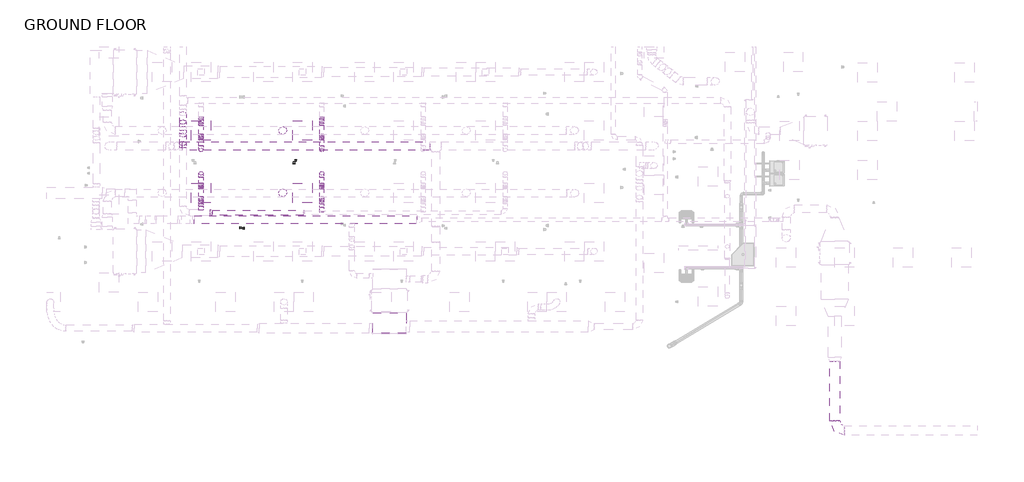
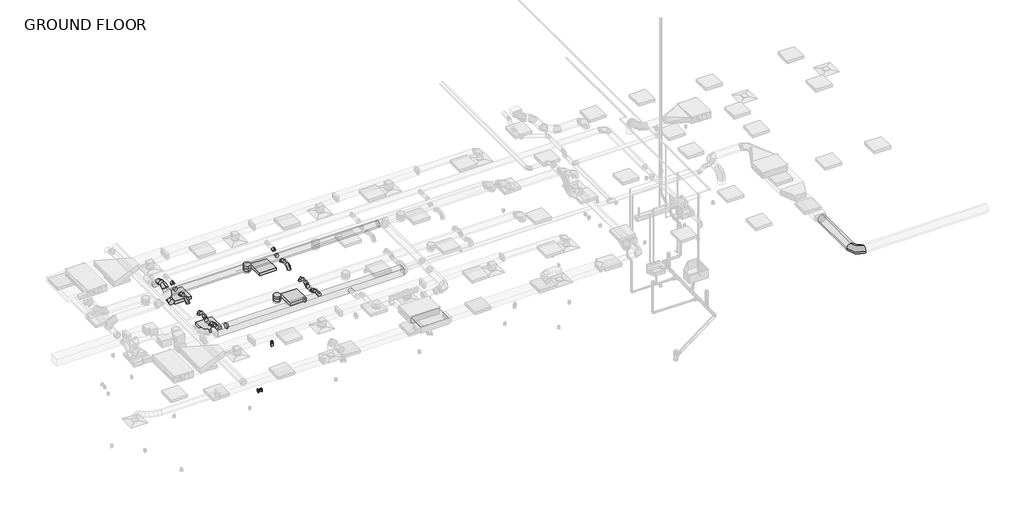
# One storey, part 3 of 20: 31 duct segments, 30 duct fittings, 4 light fixtures, 4 proxies.
"""IFC4 building model written with IfcOpenShell, lengths in millimetres."""

from ifc_helpers import new_model, si_unit, point, frame, frame_2d, origin, place, context, project, spatial, polyline, circle_curve, trimmed, segment, composite_curve, outline, extrude, transform, mapped, element, save
from components import duplex_receptacle_countertop_10251bba, round_elbow_1_d_c80420c1, round_elbow_1_d_281bc45b, round_elbow_1_d_ab3aa7ba, round_elbow_1_d_e3dc691b, round_elbow_1_d_538d8ec8, round_elbow_1_d_400cd2ab, round_elbow_1_d_88736f48, round_elbow_1_d_3f34665d, round_takeoff_standard_161717b3, round_takeoff_standard_c386a54e, round_takeoff_standard_86d024ab, round_takeoff_standard_cae0fe22, round_transition_angle_45_degree_f2e0231c, round_transition_angle_45_degree_d2c7fbb0, troffer_corner_insert_2x2_3lamp_e67c7f8f

model = new_model("IFC4")

# Units and contexts
model_context = context("Model", 3, world=origin())
ifc_project = project(units=[si_unit("LENGTHUNIT", "METRE", prefix="MILLI")], contexts=[model_context])

# Site, building, storey
site = spatial("IfcSite", under=ifc_project)
building = spatial("IfcBuilding", under=site)
storey = spatial("IfcBuildingStorey", under=building, Name="GROUND FLOOR", Elevation=30480.0)

# Proxies
placement = place(None, origin())
duplex_receptacle_countertop_shape = duplex_receptacle_countertop_10251bba(model_context)
element("IfcBuildingElementProxy", 1, Name="Duplex Receptacle : Standard", ObjectType="Duplex Receptacle : Standard", at=placement, inside=storey, context=model_context, shape_type="MappedRepresentation", body=[
    mapped(duplex_receptacle_countertop_shape, transform((-2751.7704607, -3487.800279, 30937.2), x_axis=(0.0, -1.0, 0.0), y_axis=(0.0, 0.0, 1.0), z_axis=(-1.0, 0.0, 0.0))),
])
element("IfcBuildingElementProxy", 2, Name="Duplex Receptacle : Standard", ObjectType="Duplex Receptacle : Standard", at=placement, inside=storey, context=model_context, shape_type="MappedRepresentation", body=[
    mapped(duplex_receptacle_countertop_shape, transform((-2627.9454607, -3509.8392868, 30937.2), x_axis=(0.0, 1.0, 0.0), y_axis=(0.0, 0.0, 1.0), z_axis=(1.0, 0.0, 0.0))),
])
element("IfcBuildingElementProxy", 3, Name="Duplex Receptacle : Standard", ObjectType="Duplex Receptacle : Standard", at=placement, inside=storey, context=model_context, shape_type="MappedRepresentation", body=[
    mapped(duplex_receptacle_countertop_shape, transform((-1062.3593132, -1484.9054995, 30937.2), x_axis=(1.0, 0.0, 0.0), y_axis=(0.0, 0.0, 1.0), z_axis=(0.0, -1.0, 0.0))),
])
element("IfcBuildingElementProxy", 4, Name="Duplex Receptacle : Standard", ObjectType="Duplex Receptacle : Standard", at=placement, inside=storey, context=model_context, shape_type="MappedRepresentation", body=[
    mapped(duplex_receptacle_countertop_shape, transform((-1007.2617938, -1361.0804995, 30937.2), x_axis=(-1.0, 0.0, 0.0), y_axis=(0.0, 0.0, 1.0), z_axis=(0.0, 1.0, 0.0))),
])

# Duct fittings
round_elbow_1_d_shape = round_elbow_1_d_c80420c1(model_context)
element("IfcDuctFitting", 5, ObjectType="Round Elbow : 1 D", at=placement, inside=storey, context=model_context, shape_type="MappedRepresentation", body=[
    mapped(round_elbow_1_d_shape, transform((-3970.9704607, -1056.2804995, 33477.2), x_axis=(0.0, -1.0, 0.0), y_axis=(0.0, 0.0, -1.0), z_axis=(1.0, 0.0, 0.0))),
])
element("IfcDuctFitting", 6, ObjectType="Round Elbow : 1 D", at=placement, inside=storey, context=model_context, shape_type="MappedRepresentation", body=[
    mapped(round_elbow_1_d_shape, transform((-189.5454607, -1056.2804995, 33477.2), x_axis=(0.0, -1.0, 0.0), y_axis=(0.0, 0.0, -1.0), z_axis=(1.0, 0.0, 0.0))),
])
round_elbow_1_d_2_shape = round_elbow_1_d_281bc45b(model_context)
element("IfcDuctFitting", 7, ObjectType="Round Elbow : 1 D", at=placement, inside=storey, context=model_context, shape_type="MappedRepresentation", body=[
    mapped(round_elbow_1_d_2_shape, transform((15866.7105962, -9838.464426, 33750.25), x_axis=(0.0, -1.0, 0.0), y_axis=(1.0, 0.0, 0.0), z_axis=(0.0, 0.0, 1.0))),
])
round_elbow_1_d_3_shape = round_elbow_1_d_ab3aa7ba(model_context)
element("IfcDuctFitting", 8, ObjectType="Round Elbow : 1 D", at=placement, inside=storey, context=model_context, shape_type="MappedRepresentation", body=[
    mapped(round_elbow_1_d_3_shape, transform((-4541.976464, -909.8231584, 33528.0), x_axis=(0.0, 1.0, 0.0), y_axis=(0.0, 0.0, 1.0), z_axis=(1.0, 0.0, 0.0))),
])
element("IfcDuctFitting", 9, ObjectType="Round Elbow : 1 D", at=placement, inside=storey, context=model_context, shape_type="MappedRepresentation", body=[
    mapped(round_elbow_1_d_3_shape, transform((-4541.976464, -528.8231584, 33909.0), x_axis=(0.0, 0.7071067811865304, 0.7071067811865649), y_axis=(0.0, 0.7071067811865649, -0.7071067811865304), z_axis=(-1.0, 0.0, 0.0))),
])
round_elbow_1_d_4_shape = round_elbow_1_d_e3dc691b(model_context)
element("IfcDuctFitting", 10, ObjectType="Round Elbow : 1 D", at=placement, inside=storey, context=model_context, shape_type="MappedRepresentation", body=[
    mapped(round_elbow_1_d_4_shape, transform((-3970.9704607, -2688.8145579, 33528.0), x_axis=(0.0, 1.0, 0.0), y_axis=(0.0, 0.0, -1.0), z_axis=(-1.0, 0.0, 0.0))),
])
element("IfcDuctFitting", 11, ObjectType="Round Elbow : 1 D", at=placement, inside=storey, context=model_context, shape_type="MappedRepresentation", body=[
    mapped(round_elbow_1_d_4_shape, transform((-3970.9704607, -2571.0260053, 33410.2114474), x_axis=(0.0, 0.7071067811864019, -0.7071067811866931), y_axis=(0.0, 0.7071067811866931, 0.7071067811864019), z_axis=(1.0, 0.0, 0.0))),
])
element("IfcDuctFitting", 12, ObjectType="Round Elbow : 1 D", at=placement, inside=storey, context=model_context, shape_type="MappedRepresentation", body=[
    mapped(round_elbow_1_d_4_shape, transform((-189.5454607, -2571.0260053, 33410.2114474), x_axis=(0.0, 0.7071067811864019, -0.7071067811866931), y_axis=(0.0, 0.7071067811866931, 0.7071067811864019), z_axis=(1.0, 0.0, 0.0))),
])
element("IfcDuctFitting", 13, ObjectType="Round Elbow : 1 D", at=placement, inside=storey, context=model_context, shape_type="MappedRepresentation", body=[
    mapped(round_elbow_1_d_4_shape, transform((-189.5454607, -2688.8145579, 33528.0), x_axis=(0.0, -0.707106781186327, 0.7071067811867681), y_axis=(0.0, -0.7071067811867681, -0.707106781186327), z_axis=(1.0, 0.0, 0.0))),
])
round_elbow_1_d_5_shape = round_elbow_1_d_538d8ec8(model_context)
element("IfcDuctFitting", 14, ObjectType="Round Elbow : 1 D", at=placement, inside=storey, context=model_context, shape_type="MappedRepresentation", body=[
    mapped(round_elbow_1_d_5_shape, transform((-3970.9704607, -703.4357216, 33477.2), x_axis=(0.0, 1.0, 0.0), y_axis=(0.0, 0.0, -1.0), z_axis=(-1.0, 0.0, 0.0))),
])
element("IfcDuctFitting", 15, ObjectType="Round Elbow : 1 D", at=placement, inside=storey, context=model_context, shape_type="MappedRepresentation", body=[
    mapped(round_elbow_1_d_5_shape, transform((-3970.9704607, -599.403412, 33404.3557926), x_axis=(0.0, 0.8191520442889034, -0.5735764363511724), y_axis=(0.0, 0.5735764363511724, 0.8191520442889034), z_axis=(1.0, 0.0, 0.0))),
])
element("IfcDuctFitting", 16, ObjectType="Round Elbow : 1 D", at=placement, inside=storey, context=model_context, shape_type="MappedRepresentation", body=[
    mapped(round_elbow_1_d_5_shape, transform((-3970.9704607, -240.3054995, 33404.3557926), x_axis=(0.0, 1.0, 0.0), y_axis=(0.0, 0.0, 1.0), z_axis=(1.0, 0.0, 0.0))),
])
element("IfcDuctFitting", 17, ObjectType="Round Elbow : 1 D", at=placement, inside=storey, context=model_context, shape_type="MappedRepresentation", body=[
    mapped(round_elbow_1_d_5_shape, transform((-3970.9704607, -2238.2198452, 33410.2114474), x_axis=(0.0, -0.8191520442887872, -0.5735764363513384), y_axis=(0.0, -0.5735764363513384, 0.8191520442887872), z_axis=(-1.0, 0.0, 0.0))),
])
element("IfcDuctFitting", 18, ObjectType="Round Elbow : 1 D", at=placement, inside=storey, context=model_context, shape_type="MappedRepresentation", body=[
    mapped(round_elbow_1_d_5_shape, transform((-3970.9704607, -63.7232711, 33528.0), x_axis=(0.0, 0.8191520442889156, 0.5735764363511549), y_axis=(0.0, 0.5735764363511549, -0.8191520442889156), z_axis=(-1.0, 0.0, 0.0))),
])
element("IfcDuctFitting", 19, ObjectType="Round Elbow : 1 D", at=placement, inside=storey, context=model_context, shape_type="MappedRepresentation", body=[
    mapped(round_elbow_1_d_5_shape, transform((-189.5454607, -703.4357216, 33477.2), x_axis=(0.0, 1.0, 0.0), y_axis=(0.0, 0.0, -1.0), z_axis=(-1.0, 0.0, 0.0))),
])
element("IfcDuctFitting", 20, ObjectType="Round Elbow : 1 D", at=placement, inside=storey, context=model_context, shape_type="MappedRepresentation", body=[
    mapped(round_elbow_1_d_5_shape, transform((-189.5454607, -599.403412, 33404.3557926), x_axis=(0.0, 0.8191520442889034, -0.5735764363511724), y_axis=(0.0, 0.5735764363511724, 0.8191520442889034), z_axis=(1.0, 0.0, 0.0))),
])
element("IfcDuctFitting", 21, ObjectType="Round Elbow : 1 D", at=placement, inside=storey, context=model_context, shape_type="MappedRepresentation", body=[
    mapped(round_elbow_1_d_5_shape, transform((-189.5454607, -240.3054995, 33404.3557926), x_axis=(0.0, 1.0, 0.0), y_axis=(0.0, 0.0, 1.0), z_axis=(1.0, 0.0, 0.0))),
])
element("IfcDuctFitting", 22, ObjectType="Round Elbow : 1 D", at=placement, inside=storey, context=model_context, shape_type="MappedRepresentation", body=[
    mapped(round_elbow_1_d_5_shape, transform((-189.5454607, -2238.2198452, 33410.2114474), x_axis=(0.0, -0.8191520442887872, -0.5735764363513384), y_axis=(0.0, -0.5735764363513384, 0.8191520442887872), z_axis=(-1.0, 0.0, 0.0))),
])
element("IfcDuctFitting", 23, ObjectType="Round Elbow : 1 D", at=placement, inside=storey, context=model_context, shape_type="MappedRepresentation", body=[
    mapped(round_elbow_1_d_5_shape, transform((-189.5454607, -63.7232711, 33528.0), x_axis=(0.0, 0.8191520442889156, 0.5735764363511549), y_axis=(0.0, 0.5735764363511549, -0.8191520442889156), z_axis=(-1.0, 0.0, 0.0))),
])
round_elbow_1_d_6_shape = round_elbow_1_d_400cd2ab(model_context)
element("IfcDuctFitting", 24, ObjectType="Round Elbow : 1 D", at=placement, inside=storey, context=model_context, shape_type="MappedRepresentation", body=[
    mapped(round_elbow_1_d_6_shape, transform((-3970.9704607, -1789.7054995, 33477.2), x_axis=(0.0, 1.0, 0.0), y_axis=(0.0, 0.0, 1.0), z_axis=(1.0, 0.0, 0.0))),
])
element("IfcDuctFitting", 25, ObjectType="Round Elbow : 1 D", at=placement, inside=storey, context=model_context, shape_type="MappedRepresentation", body=[
    mapped(round_elbow_1_d_6_shape, transform((-189.5454607, -1789.7054995, 33477.2), x_axis=(0.0, 1.0, 0.0), y_axis=(0.0, 0.0, 1.0), z_axis=(1.0, 0.0, 0.0))),
])
round_elbow_1_d_7_shape = round_elbow_1_d_88736f48(model_context)
element("IfcDuctFitting", 26, ObjectType="Round Elbow : 1 D", at=placement, inside=storey, context=model_context, shape_type="MappedRepresentation", body=[
    mapped(round_elbow_1_d_7_shape, transform((-3970.9704607, -2142.5502773, 33477.2), x_axis=(0.0, -1.0, 0.0), y_axis=(0.0, 0.0, 1.0), z_axis=(-1.0, 0.0, 0.0))),
])
element("IfcDuctFitting", 27, ObjectType="Round Elbow : 1 D", at=placement, inside=storey, context=model_context, shape_type="MappedRepresentation", body=[
    mapped(round_elbow_1_d_7_shape, transform((-189.5454607, -2142.5502773, 33477.2), x_axis=(0.0, -1.0, 0.0), y_axis=(0.0, 0.0, 1.0), z_axis=(-1.0, 0.0, 0.0))),
])
round_elbow_1_d_8_shape = round_elbow_1_d_3f34665d(model_context)
element("IfcDuctFitting", 28, ObjectType="Round Elbow : 1 D", at=placement, inside=storey, context=model_context, shape_type="MappedRepresentation", body=[
    mapped(round_elbow_1_d_8_shape, transform((-4541.976464, -241.4549626, 33909.0), x_axis=(0.0, -0.7071067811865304, 0.7071067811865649), y_axis=(0.0, 0.7071067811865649, 0.7071067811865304), z_axis=(-1.0, 0.0, 0.0))),
])
round_takeoff_standard_shape = round_takeoff_standard_161717b3(model_context)
element("IfcDuctFitting", 29, ObjectType="Round Takeoff : Standard", at=placement, inside=storey, context=model_context, shape_type="MappedRepresentation", body=[
    mapped(round_takeoff_standard_shape, transform((-1408.7454607, -2399.3054995, 33490.69375), x_axis=(0.0, 0.0, -1.0), y_axis=(-1.0, 0.0, 0.0), z_axis=(0.0, 1.0, 0.0))),
])
round_takeoff_standard_2_shape = round_takeoff_standard_c386a54e(model_context)
element("IfcDuctFitting", 30, ObjectType="Round Takeoff : Standard", at=placement, inside=storey, context=model_context, shape_type="MappedRepresentation", body=[
    mapped(round_takeoff_standard_2_shape, transform((-1408.7454607, -446.6804995, 33490.69375), x_axis=(0.0, 0.0, -1.0), y_axis=(-1.0, 0.0, 0.0), z_axis=(0.0, 1.0, 0.0))),
])
round_takeoff_standard_3_shape = round_takeoff_standard_86d024ab(model_context)
element("IfcDuctFitting", 31, ObjectType="Round Takeoff : Standard", at=placement, inside=storey, context=model_context, shape_type="MappedRepresentation", body=[
    mapped(round_takeoff_standard_3_shape, transform((-3970.9704607, -2917.4145579, 33528.0), x_axis=(0.0, 1.0, 0.0), y_axis=(1.0, 0.0, 0.0), z_axis=(0.0, 0.0, -1.0))),
])
round_takeoff_standard_4_shape = round_takeoff_standard_cae0fe22(model_context)
element("IfcDuctFitting", 32, ObjectType="Round Takeoff : Standard", at=placement, inside=storey, context=model_context, shape_type="MappedRepresentation", body=[
    mapped(round_takeoff_standard_4_shape, transform((-189.5454607, -2955.5145579, 33528.0), x_axis=(0.0, 1.0, 0.0), y_axis=(1.0, 0.0, 0.0), z_axis=(0.0, 0.0, -1.0))),
])
round_transition_angle_45_degree_shape = round_transition_angle_45_degree_f2e0231c(model_context)
element("IfcDuctFitting", 33, ObjectType="Round Transition - Angle : 45 Degree", at=placement, inside=storey, context=model_context, shape_type="MappedRepresentation", body=[
    mapped(round_transition_angle_45_degree_shape, transform((-731.976464, -3019.0145579, 33528.0), x_axis=(-1.0, 0.0, 0.0), y_axis=(0.0, -1.0, 0.0), z_axis=(0.0, 0.0, 1.0))),
])
round_transition_angle_45_degree_2_shape = round_transition_angle_45_degree_d2c7fbb0(model_context)
element("IfcDuctFitting", 34, ObjectType="Round Transition - Angle : 45 Degree", at=placement, inside=storey, context=model_context, shape_type="MappedRepresentation", body=[
    mapped(round_transition_angle_45_degree_2_shape, transform((-3681.8784098, -3019.0145579, 33528.0), x_axis=(1.0, 0.0, 0.0), y_axis=(0.0, 1.0, 0.0), z_axis=(0.0, 0.0, 1.0))),
])

# Duct segments
element("IfcDuctSegment", 35, ObjectType="Mitered Elbows / Tees", at=placement, inside=storey, context=model_context, shape_type="SweptSolid", body=[
    extrude(outline(polyline([(1403.1207034, -6152.6850038), (2458.8082034, -6152.6850038), (2458.8082034, -6797.459162), (1403.1207034, -6797.459162), (1403.1207034, -6152.6850038)])), frame((0.0, 0.0, 33774.0625), z_axis=(0.0, 0.0, 1.0), x_axis=(1.0, 0.0, 0.0)), (0.0, 0.0, 1.0), 206.375),
])
element("IfcDuctSegment", 36, ObjectType="Radius Elbows / Taps", at=placement, inside=storey, context=model_context, shape_type="SweptSolid", body=[
    extrude(outline(polyline([(2787.255189, -3118.6216457), (2787.255189, -3372.6216457), (-4184.5880259, -3372.6216457), (-4184.5880259, -3118.6216457), (2787.255189, -3118.6216457)])), frame((0.0, 0.0, 33475.867541), z_axis=(0.0, 0.0, 1.0), x_axis=(1.0, 0.0, 0.0)), (0.0, 0.0, 1.0), 254.0),
])
element("IfcDuctSegment", 37, ObjectType="Taps / Short Radius", at=placement, inside=storey, context=model_context, shape_type="SweptSolid", body=[
    extrude(outline(composite_curve([segment(trimmed(circle_curve(frame_2d((33750.25, 15866.7105962)), 152.4), [point((33750.25, 15714.3105962))], [point((33597.85, 15866.7105962))], False, "CARTESIAN"), True, "CONTINUOUS"), segment(trimmed(circle_curve(frame_2d((33750.25, 15866.7105962)), 152.4), [point((33597.85, 15866.7105962))], [point((33750.25, 16019.1105962))], False, "CARTESIAN"), True, "CONTINUOUS"), segment(trimmed(circle_curve(frame_2d((33750.25, 15866.7105962)), 152.4), [point((33750.25, 16019.1105962))], [point((33902.65, 15866.7105962))], False, "CARTESIAN"), True, "CONTINUOUS"), segment(trimmed(circle_curve(frame_2d((33750.25, 15866.7105962)), 152.4), [point((33902.65, 15866.7105962))], [point((33750.25, 15714.3105962))], False, "CARTESIAN"), True, "CONTINUOUS")], self_intersect=False)), frame((0.0, -9533.664426, 0.0), z_axis=(0.0, 1.0, 0.0), x_axis=(0.0, 0.0, 1.0)), (0.0, 0.0, 1.0), 1858.557951),
])
element("IfcDuctSegment", 38, ObjectType="Taps / Short Radius", at=placement, inside=storey, context=model_context, shape_type="SweptSolid", body=[
    extrude(outline(composite_curve([segment(trimmed(circle_curve(frame_2d((-932.4554995, 33883.6)), 127.0), [point((-805.4554995, 33883.6))], [point((-932.4554995, 33756.6))], False, "CARTESIAN"), True, "CONTINUOUS"), segment(trimmed(circle_curve(frame_2d((-932.4554995, 33883.6)), 127.0), [point((-932.4554995, 33756.6))], [point((-1059.4554995, 33883.6))], False, "CARTESIAN"), True, "CONTINUOUS"), segment(trimmed(circle_curve(frame_2d((-932.4554995, 33883.6)), 127.0), [point((-1059.4554995, 33883.6))], [point((-932.4554995, 34010.6))], False, "CARTESIAN"), True, "CONTINUOUS"), segment(trimmed(circle_curve(frame_2d((-932.4554995, 33883.6)), 127.0), [point((-932.4554995, 34010.6))], [point((-805.4554995, 33883.6))], False, "CARTESIAN"), True, "CONTINUOUS")], self_intersect=False)), frame((-4559.6096142, 0.0, 0.0), z_axis=(1.0, 0.0, 0.0), x_axis=(0.0, 1.0, 0.0)), (0.0, 0.0, 1.0), 7755.0178177),
])
element("IfcDuctSegment", 39, ObjectType="Taps / Short Radius", at=placement, inside=storey, context=model_context, shape_type="SweptSolid", body=[
    extrude(outline(composite_curve([segment(trimmed(circle_curve(frame_2d((-1408.7454607, -2399.3054995)), 127.0), [point((-1535.7454607, -2399.3054995))], [point((-1408.7454607, -2272.3054995))], False, "CARTESIAN"), True, "CONTINUOUS"), segment(trimmed(circle_curve(frame_2d((-1408.7454607, -2399.3054995)), 127.0), [point((-1408.7454607, -2272.3054995))], [point((-1281.7454607, -2399.3054995))], False, "CARTESIAN"), True, "CONTINUOUS"), segment(trimmed(circle_curve(frame_2d((-1408.7454607, -2399.3054995)), 127.0), [point((-1281.7454607, -2399.3054995))], [point((-1408.7454607, -2526.3054995))], False, "CARTESIAN"), True, "CONTINUOUS"), segment(trimmed(circle_curve(frame_2d((-1408.7454607, -2399.3054995)), 127.0), [point((-1408.7454607, -2526.3054995))], [point((-1535.7454607, -2399.3054995))], False, "CARTESIAN"), True, "CONTINUOUS")], self_intersect=False)), frame((0.0, 0.0, 33324.8), z_axis=(0.0, 0.0, 1.0), x_axis=(1.0, 0.0, 0.0)), (0.0, 0.0, 1.0), 64.29375),
])
element("IfcDuctSegment", 40, ObjectType="Taps / Short Radius", at=placement, inside=storey, context=model_context, shape_type="SweptSolid", body=[
    extrude(outline(composite_curve([segment(trimmed(circle_curve(frame_2d((-1408.7454607, -446.6804995)), 127.0), [point((-1535.7454607, -446.6804995))], [point((-1408.7454607, -319.6804995))], False, "CARTESIAN"), True, "CONTINUOUS"), segment(trimmed(circle_curve(frame_2d((-1408.7454607, -446.6804995)), 127.0), [point((-1408.7454607, -319.6804995))], [point((-1281.7454607, -446.6804995))], False, "CARTESIAN"), True, "CONTINUOUS"), segment(trimmed(circle_curve(frame_2d((-1408.7454607, -446.6804995)), 127.0), [point((-1281.7454607, -446.6804995))], [point((-1408.7454607, -573.6804995))], False, "CARTESIAN"), True, "CONTINUOUS"), segment(trimmed(circle_curve(frame_2d((-1408.7454607, -446.6804995)), 127.0), [point((-1408.7454607, -573.6804995))], [point((-1535.7454607, -446.6804995))], False, "CARTESIAN"), True, "CONTINUOUS")], self_intersect=False)), frame((0.0, 0.0, 33324.8), z_axis=(0.0, 0.0, 1.0), x_axis=(1.0, 0.0, 0.0)), (0.0, 0.0, 1.0), 64.29375),
])
element("IfcDuctSegment", 41, ObjectType="Taps / Short Radius", at=placement, inside=storey, context=model_context, shape_type="SweptSolid", body=[
    extrude(outline(composite_curve([segment(trimmed(circle_curve(frame_2d((-3970.9704607, -1056.2804995)), 63.5), [point((-4034.4704607, -1056.2804995))], [point((-3970.9704607, -992.7804995))], False, "CARTESIAN"), True, "CONTINUOUS"), segment(trimmed(circle_curve(frame_2d((-3970.9704607, -1056.2804995)), 63.5), [point((-3970.9704607, -992.7804995))], [point((-3907.4704607, -1056.2804995))], False, "CARTESIAN"), True, "CONTINUOUS"), segment(trimmed(circle_curve(frame_2d((-3970.9704607, -1056.2804995)), 63.5), [point((-3907.4704607, -1056.2804995))], [point((-3970.9704607, -1119.7804995))], False, "CARTESIAN"), True, "CONTINUOUS"), segment(trimmed(circle_curve(frame_2d((-3970.9704607, -1056.2804995)), 63.5), [point((-3970.9704607, -1119.7804995))], [point((-4034.4704607, -1056.2804995))], False, "CARTESIAN"), True, "CONTINUOUS")], self_intersect=False)), frame((0.0, 0.0, 33324.8), z_axis=(0.0, 0.0, 1.0), x_axis=(1.0, 0.0, 0.0)), (0.0, 0.0, 1.0), 25.4),
])
element("IfcDuctSegment", 42, ObjectType="Taps / Short Radius", at=placement, inside=storey, context=model_context, shape_type="SweptSolid", body=[
    extrude(outline(composite_curve([segment(trimmed(circle_curve(frame_2d((-3019.0145579, 33528.0)), 76.2), [point((-2942.8145579, 33528.0))], [point((-3019.0145579, 33451.8))], False, "CARTESIAN"), True, "CONTINUOUS"), segment(trimmed(circle_curve(frame_2d((-3019.0145579, 33528.0)), 76.2), [point((-3019.0145579, 33451.8))], [point((-3095.2145579, 33528.0))], False, "CARTESIAN"), True, "CONTINUOUS"), segment(trimmed(circle_curve(frame_2d((-3019.0145579, 33528.0)), 76.2), [point((-3095.2145579, 33528.0))], [point((-3019.0145579, 33604.2))], False, "CARTESIAN"), True, "CONTINUOUS"), segment(trimmed(circle_curve(frame_2d((-3019.0145579, 33528.0)), 76.2), [point((-3019.0145579, 33604.2))], [point((-2942.8145579, 33528.0))], False, "CARTESIAN"), True, "CONTINUOUS")], self_intersect=False)), frame((-3620.5573854, 0.0, 0.0), z_axis=(1.0, 0.0, 0.0), x_axis=(0.0, 1.0, 0.0)), (0.0, 0.0, 1.0), 2857.9204091),
])
element("IfcDuctSegment", 43, ObjectType="Taps / Short Radius", at=placement, inside=storey, context=model_context, shape_type="SweptSolid", body=[
    extrude(outline(composite_curve([segment(trimmed(circle_curve(frame_2d((0.0, 101.5999999)), 101.6), [point((101.6, 101.5999999))], [point((0.0, 0.0))], False, "CARTESIAN"), True, "CONTINUOUS"), segment(trimmed(circle_curve(frame_2d((0.0, 101.5999999)), 101.6), [point((0.0, 0.0))], [point((-101.6, 101.5999999))], False, "CARTESIAN"), True, "CONTINUOUS"), segment(trimmed(circle_curve(frame_2d((0.0, 101.5999999)), 101.6), [point((-101.6, 101.5999999))], [point((0.0, 203.1999999))], False, "CARTESIAN"), True, "CONTINUOUS"), segment(trimmed(circle_curve(frame_2d((0.0, 101.5999999)), 101.6), [point((0.0, 203.1999999))], [point((101.6, 101.5999999))], False, "CARTESIAN"), True, "CONTINUOUS")], self_intersect=False)), frame((-4541.976464, -922.1493053, 33659.357951), z_axis=(0.0, 0.7071067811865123, 0.7071067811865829), x_axis=(1.0, 0.0, 0.0)), (0.0, 0.0, 1.0), 370.4789755),
])
element("IfcDuctSegment", 44, ObjectType="Taps / Short Radius", at=placement, inside=storey, context=model_context, shape_type="SweptSolid", body=[
    extrude(outline(composite_curve([segment(trimmed(circle_curve(frame_2d((33477.2, -3970.9704607)), 63.5), [point((33477.2, -3907.4704607))], [point((33540.7, -3970.9704607))], False, "CARTESIAN"), True, "CONTINUOUS"), segment(trimmed(circle_curve(frame_2d((33477.2, -3970.9704607)), 63.5), [point((33540.7, -3970.9704607))], [point((33477.2, -4034.4704607))], False, "CARTESIAN"), True, "CONTINUOUS"), segment(trimmed(circle_curve(frame_2d((33477.2, -3970.9704607)), 63.5), [point((33477.2, -4034.4704607))], [point((33413.7, -3970.9704607))], False, "CARTESIAN"), True, "CONTINUOUS"), segment(trimmed(circle_curve(frame_2d((33477.2, -3970.9704607)), 63.5), [point((33413.7, -3970.9704607))], [point((33477.2, -3907.4704607))], False, "CARTESIAN"), True, "CONTINUOUS")], self_intersect=False)), frame((0.0, -929.2804995, 0.0), z_axis=(0.0, 1.0, 0.0), x_axis=(0.0, 0.0, 1.0)), (0.0, 0.0, 1.0), 185.8018317),
])
element("IfcDuctSegment", 45, ObjectType="Taps / Short Radius", at=placement, inside=storey, context=model_context, shape_type="SweptSolid", body=[
    extrude(outline(composite_curve([segment(trimmed(circle_curve(frame_2d((0.0, -63.5)), 63.5), [point((63.5, -63.5))], [point((0.0, -127.0000001))], False, "CARTESIAN"), True, "CONTINUOUS"), segment(trimmed(circle_curve(frame_2d((0.0, -63.5)), 63.5), [point((0.0, -127.0000001))], [point((-63.5, -63.5))], False, "CARTESIAN"), True, "CONTINUOUS"), segment(trimmed(circle_curve(frame_2d((0.0, -63.5)), 63.5), [point((-63.5, -63.5))], [point((0.0, 0.0))], False, "CARTESIAN"), True, "CONTINUOUS"), segment(trimmed(circle_curve(frame_2d((0.0, -63.5)), 63.5), [point((0.0, 0.0))], [point((63.5, -63.5))], False, "CARTESIAN"), True, "CONTINUOUS")], self_intersect=False)), frame((-3970.9704607, -595.7825695, 33479.3396378), z_axis=(0.0, -0.8191520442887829, 0.5735764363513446), x_axis=(1.0, 0.0, 0.0)), (0.0, 0.0, 1.0), 46.9141076),
])
element("IfcDuctSegment", 46, ObjectType="Taps / Short Radius", at=placement, inside=storey, context=model_context, shape_type="SweptSolid", body=[
    extrude(outline(composite_curve([segment(trimmed(circle_curve(frame_2d((33404.3557926, -3970.9704607)), 63.5), [point((33404.3557926, -3907.4704607))], [point((33467.8557926, -3970.9704607))], False, "CARTESIAN"), True, "CONTINUOUS"), segment(trimmed(circle_curve(frame_2d((33404.3557926, -3970.9704607)), 63.5), [point((33467.8557926, -3970.9704607))], [point((33404.3557926, -4034.4704607))], False, "CARTESIAN"), True, "CONTINUOUS"), segment(trimmed(circle_curve(frame_2d((33404.3557926, -3970.9704607)), 63.5), [point((33404.3557926, -4034.4704607))], [point((33340.8557926, -3970.9704607))], False, "CARTESIAN"), True, "CONTINUOUS"), segment(trimmed(circle_curve(frame_2d((33404.3557926, -3970.9704607)), 63.5), [point((33340.8557926, -3970.9704607))], [point((33404.3557926, -3907.4704607))], False, "CARTESIAN"), True, "CONTINUOUS")], self_intersect=False)), frame((0.0, -559.3604658, 0.0), z_axis=(0.0, 1.0, 0.0), x_axis=(0.0, 0.0, 1.0)), (0.0, 0.0, 1.0), 279.0120202),
])
element("IfcDuctSegment", 47, ObjectType="Taps / Short Radius", at=placement, inside=storey, context=model_context, shape_type="SweptSolid", body=[
    extrude(outline(composite_curve([segment(trimmed(circle_curve(frame_2d((0.0, 63.5)), 63.5), [point((63.5, 63.5))], [point((0.0, 0.0))], False, "CARTESIAN"), True, "CONTINUOUS"), segment(trimmed(circle_curve(frame_2d((0.0, 63.5)), 63.5), [point((0.0, 0.0))], [point((-63.5, 63.5))], False, "CARTESIAN"), True, "CONTINUOUS"), segment(trimmed(circle_curve(frame_2d((0.0, 63.5)), 63.5), [point((-63.5, 63.5))], [point((0.0, 127.0000001))], False, "CARTESIAN"), True, "CONTINUOUS"), segment(trimmed(circle_curve(frame_2d((0.0, 63.5)), 63.5), [point((0.0, 127.0000001))], [point((63.5, 63.5))], False, "CARTESIAN"), True, "CONTINUOUS")], self_intersect=False)), frame((-3970.9704607, -243.926342, 33479.3396378), z_axis=(0.0, 0.81915204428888, 0.5735764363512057), x_axis=(1.0, 0.0, 0.0)), (0.0, 0.0, 1.0), 135.4812048),
])
element("IfcDuctSegment", 48, ObjectType="Taps / Short Radius", at=placement, inside=storey, context=model_context, shape_type="SweptSolid", body=[
    extrude(outline(composite_curve([segment(trimmed(circle_curve(frame_2d((-3970.9704607, -1789.7054995)), 63.5), [point((-3907.4704607, -1789.7054995))], [point((-3970.9704607, -1853.2054995))], False, "CARTESIAN"), True, "CONTINUOUS"), segment(trimmed(circle_curve(frame_2d((-3970.9704607, -1789.7054995)), 63.5), [point((-3970.9704607, -1853.2054995))], [point((-4034.4704607, -1789.7054995))], False, "CARTESIAN"), True, "CONTINUOUS"), segment(trimmed(circle_curve(frame_2d((-3970.9704607, -1789.7054995)), 63.5), [point((-4034.4704607, -1789.7054995))], [point((-3970.9704607, -1726.2054995))], False, "CARTESIAN"), True, "CONTINUOUS"), segment(trimmed(circle_curve(frame_2d((-3970.9704607, -1789.7054995)), 63.5), [point((-3970.9704607, -1726.2054995))], [point((-3907.4704607, -1789.7054995))], False, "CARTESIAN"), True, "CONTINUOUS")], self_intersect=False)), frame((0.0, 0.0, 33324.8), z_axis=(0.0, 0.0, 1.0), x_axis=(1.0, 0.0, 0.0)), (0.0, 0.0, 1.0), 25.4),
])
element("IfcDuctSegment", 49, ObjectType="Taps / Short Radius", at=placement, inside=storey, context=model_context, shape_type="SweptSolid", body=[
    extrude(outline(composite_curve([segment(trimmed(circle_curve(frame_2d((33477.2, -3970.9704607)), 63.5), [point((33477.2, -4034.4704607))], [point((33413.7, -3970.9704607))], False, "CARTESIAN"), True, "CONTINUOUS"), segment(trimmed(circle_curve(frame_2d((33477.2, -3970.9704607)), 63.5), [point((33413.7, -3970.9704607))], [point((33477.2, -3907.4704607))], False, "CARTESIAN"), True, "CONTINUOUS"), segment(trimmed(circle_curve(frame_2d((33477.2, -3970.9704607)), 63.5), [point((33477.2, -3907.4704607))], [point((33540.7, -3970.9704607))], False, "CARTESIAN"), True, "CONTINUOUS"), segment(trimmed(circle_curve(frame_2d((33477.2, -3970.9704607)), 63.5), [point((33540.7, -3970.9704607))], [point((33477.2, -4034.4704607))], False, "CARTESIAN"), True, "CONTINUOUS")], self_intersect=False)), frame((0.0, -2102.5073311, 0.0), z_axis=(0.0, 1.0, 0.0), x_axis=(0.0, 0.0, 1.0)), (0.0, 0.0, 1.0), 185.8018317),
])
element("IfcDuctSegment", 50, ObjectType="Taps / Short Radius", at=placement, inside=storey, context=model_context, shape_type="SweptSolid", body=[
    extrude(outline(composite_curve([segment(trimmed(circle_curve(frame_2d((0.0, -63.5)), 63.5), [point((-63.5, -63.5))], [point((0.0, 0.0))], False, "CARTESIAN"), True, "CONTINUOUS"), segment(trimmed(circle_curve(frame_2d((0.0, -63.5)), 63.5), [point((0.0, 0.0))], [point((63.5, -63.5))], False, "CARTESIAN"), True, "CONTINUOUS"), segment(trimmed(circle_curve(frame_2d((0.0, -63.5)), 63.5), [point((63.5, -63.5))], [point((0.0, -127.0))], False, "CARTESIAN"), True, "CONTINUOUS"), segment(trimmed(circle_curve(frame_2d((0.0, -63.5)), 63.5), [point((0.0, -127.0))], [point((-63.5, -63.5))], False, "CARTESIAN"), True, "CONTINUOUS")], self_intersect=False)), frame((-3970.9704607, -2168.9964802, 33381.162983), z_axis=(0.0, 0.819152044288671, 0.5735764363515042), x_axis=(1.0, 0.0, 0.0)), (0.0, 0.0, 1.0), 36.7050849),
])
element("IfcDuctSegment", 51, ObjectType="Taps / Short Radius", at=placement, inside=storey, context=model_context, shape_type="SweptSolid", body=[
    extrude(outline(composite_curve([segment(trimmed(circle_curve(frame_2d((0.0, -101.5999999)), 101.6), [point((101.6, -101.5999999))], [point((0.0, -203.1999999))], False, "CARTESIAN"), True, "CONTINUOUS"), segment(trimmed(circle_curve(frame_2d((0.0, -101.5999999)), 101.6), [point((0.0, -203.1999999))], [point((-101.6, -101.5999999))], False, "CARTESIAN"), True, "CONTINUOUS"), segment(trimmed(circle_curve(frame_2d((0.0, -101.5999999)), 101.6), [point((-101.6, -101.5999999))], [point((0.0, 0.0))], False, "CARTESIAN"), True, "CONTINUOUS"), segment(trimmed(circle_curve(frame_2d((0.0, -101.5999999)), 101.6), [point((0.0, 0.0))], [point((101.6, -101.5999999))], False, "CARTESIAN"), True, "CONTINUOUS")], self_intersect=False)), frame((-4541.976464, 151.8711843, 33659.357951), z_axis=(0.0, -0.7071067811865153, 0.7071067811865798), x_axis=(1.0, 0.0, 0.0)), (0.0, 0.0, 1.0), 370.4789755),
])
element("IfcDuctSegment", 52, ObjectType="Taps / Short Radius", at=placement, inside=storey, context=model_context, shape_type="SweptSolid", body=[
    extrude(outline(composite_curve([segment(trimmed(circle_curve(frame_2d((33528.0, -3970.9704607)), 63.5), [point((33528.0, -3907.4704607))], [point((33591.5, -3970.9704607))], False, "CARTESIAN"), True, "CONTINUOUS"), segment(trimmed(circle_curve(frame_2d((33528.0, -3970.9704607)), 63.5), [point((33591.5, -3970.9704607))], [point((33528.0, -4034.4704607))], False, "CARTESIAN"), True, "CONTINUOUS"), segment(trimmed(circle_curve(frame_2d((33528.0, -3970.9704607)), 63.5), [point((33528.0, -4034.4704607))], [point((33464.5, -3970.9704607))], False, "CARTESIAN"), True, "CONTINUOUS"), segment(trimmed(circle_curve(frame_2d((33528.0, -3970.9704607)), 63.5), [point((33464.5, -3970.9704607))], [point((33528.0, -3907.4704607))], False, "CARTESIAN"), True, "CONTINUOUS")], self_intersect=False)), frame((0.0, -2815.8145579, 0.0), z_axis=(0.0, 1.0, 0.0), x_axis=(0.0, 0.0, 1.0)), (0.0, 0.0, 1.0), 74.3948776),
])
element("IfcDuctSegment", 53, ObjectType="Taps / Short Radius", at=placement, inside=storey, context=model_context, shape_type="SweptSolid", body=[
    extrude(outline(composite_curve([segment(trimmed(circle_curve(frame_2d((0.0, -63.5)), 63.5), [point((63.5, -63.5))], [point((0.0, -127.0))], False, "CARTESIAN"), True, "CONTINUOUS"), segment(trimmed(circle_curve(frame_2d((0.0, -63.5)), 63.5), [point((0.0, -127.0))], [point((-63.5, -63.5))], False, "CARTESIAN"), True, "CONTINUOUS"), segment(trimmed(circle_curve(frame_2d((0.0, -63.5)), 63.5), [point((-63.5, -63.5))], [point((0.0, 0.0))], False, "CARTESIAN"), True, "CONTINUOUS"), segment(trimmed(circle_curve(frame_2d((0.0, -63.5)), 63.5), [point((0.0, 0.0))], [point((63.5, -63.5))], False, "CARTESIAN"), True, "CONTINUOUS")], self_intersect=False)), frame((-3970.9704607, -2563.3221635, 33492.3101668), z_axis=(0.0, -0.7071067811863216, 0.7071067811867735), x_axis=(1.0, 0.0, 0.0)), (0.0, 0.0, 1.0), 61.3679237),
])
element("IfcDuctSegment", 54, ObjectType="Taps / Short Radius", at=placement, inside=storey, context=model_context, shape_type="SweptSolid", body=[
    extrude(outline(composite_curve([segment(trimmed(circle_curve(frame_2d((33410.2114474, -3970.9704607)), 63.5), [point((33410.2114474, -4034.4704607))], [point((33346.7114474, -3970.9704607))], False, "CARTESIAN"), True, "CONTINUOUS"), segment(trimmed(circle_curve(frame_2d((33410.2114474, -3970.9704607)), 63.5), [point((33346.7114474, -3970.9704607))], [point((33410.2114474, -3907.4704607))], False, "CARTESIAN"), True, "CONTINUOUS"), segment(trimmed(circle_curve(frame_2d((33410.2114474, -3970.9704607)), 63.5), [point((33410.2114474, -3907.4704607))], [point((33473.7114474, -3970.9704607))], False, "CARTESIAN"), True, "CONTINUOUS"), segment(trimmed(circle_curve(frame_2d((33410.2114474, -3970.9704607)), 63.5), [point((33473.7114474, -3970.9704607))], [point((33410.2114474, -4034.4704607))], False, "CARTESIAN"), True, "CONTINUOUS")], self_intersect=False)), frame((0.0, -2518.4208829, 0.0), z_axis=(0.0, 1.0, 0.0), x_axis=(0.0, 0.0, 1.0)), (0.0, 0.0, 1.0), 240.1580915),
])
element("IfcDuctSegment", 55, ObjectType="Taps / Short Radius", at=placement, inside=storey, context=model_context, shape_type="SweptSolid", body=[
    extrude(outline(composite_curve([segment(trimmed(circle_curve(frame_2d((-189.5454607, -1056.2804995)), 63.5), [point((-253.0454607, -1056.2804995))], [point((-189.5454607, -992.7804995))], False, "CARTESIAN"), True, "CONTINUOUS"), segment(trimmed(circle_curve(frame_2d((-189.5454607, -1056.2804995)), 63.5), [point((-189.5454607, -992.7804995))], [point((-126.0454607, -1056.2804995))], False, "CARTESIAN"), True, "CONTINUOUS"), segment(trimmed(circle_curve(frame_2d((-189.5454607, -1056.2804995)), 63.5), [point((-126.0454607, -1056.2804995))], [point((-189.5454607, -1119.7804995))], False, "CARTESIAN"), True, "CONTINUOUS"), segment(trimmed(circle_curve(frame_2d((-189.5454607, -1056.2804995)), 63.5), [point((-189.5454607, -1119.7804995))], [point((-253.0454607, -1056.2804995))], False, "CARTESIAN"), True, "CONTINUOUS")], self_intersect=False)), frame((0.0, 0.0, 33324.8), z_axis=(0.0, 0.0, 1.0), x_axis=(1.0, 0.0, 0.0)), (0.0, 0.0, 1.0), 25.4),
])
element("IfcDuctSegment", 56, ObjectType="Taps / Short Radius", at=placement, inside=storey, context=model_context, shape_type="SweptSolid", body=[
    extrude(outline(composite_curve([segment(trimmed(circle_curve(frame_2d((33477.2, -189.5454607)), 63.5), [point((33477.2, -126.0454607))], [point((33540.7, -189.5454607))], False, "CARTESIAN"), True, "CONTINUOUS"), segment(trimmed(circle_curve(frame_2d((33477.2, -189.5454607)), 63.5), [point((33540.7, -189.5454607))], [point((33477.2, -253.0454607))], False, "CARTESIAN"), True, "CONTINUOUS"), segment(trimmed(circle_curve(frame_2d((33477.2, -189.5454607)), 63.5), [point((33477.2, -253.0454607))], [point((33413.7, -189.5454607))], False, "CARTESIAN"), True, "CONTINUOUS"), segment(trimmed(circle_curve(frame_2d((33477.2, -189.5454607)), 63.5), [point((33413.7, -189.5454607))], [point((33477.2, -126.0454607))], False, "CARTESIAN"), True, "CONTINUOUS")], self_intersect=False)), frame((0.0, -929.2804995, 0.0), z_axis=(0.0, 1.0, 0.0), x_axis=(0.0, 0.0, 1.0)), (0.0, 0.0, 1.0), 185.8018317),
])
element("IfcDuctSegment", 57, ObjectType="Taps / Short Radius", at=placement, inside=storey, context=model_context, shape_type="SweptSolid", body=[
    extrude(outline(composite_curve([segment(trimmed(circle_curve(frame_2d((0.0, -63.5)), 63.5), [point((63.5, -63.5))], [point((0.0, -127.0000001))], False, "CARTESIAN"), True, "CONTINUOUS"), segment(trimmed(circle_curve(frame_2d((0.0, -63.5)), 63.5), [point((0.0, -127.0000001))], [point((-63.5, -63.5))], False, "CARTESIAN"), True, "CONTINUOUS"), segment(trimmed(circle_curve(frame_2d((0.0, -63.5)), 63.5), [point((-63.5, -63.5))], [point((0.0, 0.0))], False, "CARTESIAN"), True, "CONTINUOUS"), segment(trimmed(circle_curve(frame_2d((0.0, -63.5)), 63.5), [point((0.0, 0.0))], [point((63.5, -63.5))], False, "CARTESIAN"), True, "CONTINUOUS")], self_intersect=False)), frame((-189.5454607, -595.7825695, 33479.3396378), z_axis=(0.0, -0.8191520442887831, 0.5735764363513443), x_axis=(1.0, 0.0, 0.0)), (0.0, 0.0, 1.0), 46.9141076),
])
element("IfcDuctSegment", 58, ObjectType="Taps / Short Radius", at=placement, inside=storey, context=model_context, shape_type="SweptSolid", body=[
    extrude(outline(composite_curve([segment(trimmed(circle_curve(frame_2d((33404.3557926, -189.5454607)), 63.5), [point((33404.3557926, -126.0454607))], [point((33467.8557926, -189.5454607))], False, "CARTESIAN"), True, "CONTINUOUS"), segment(trimmed(circle_curve(frame_2d((33404.3557926, -189.5454607)), 63.5), [point((33467.8557926, -189.5454607))], [point((33404.3557926, -253.0454607))], False, "CARTESIAN"), True, "CONTINUOUS"), segment(trimmed(circle_curve(frame_2d((33404.3557926, -189.5454607)), 63.5), [point((33404.3557926, -253.0454607))], [point((33340.8557926, -189.5454607))], False, "CARTESIAN"), True, "CONTINUOUS"), segment(trimmed(circle_curve(frame_2d((33404.3557926, -189.5454607)), 63.5), [point((33340.8557926, -189.5454607))], [point((33404.3557926, -126.0454607))], False, "CARTESIAN"), True, "CONTINUOUS")], self_intersect=False)), frame((0.0, -559.3604658, 0.0), z_axis=(0.0, 1.0, 0.0), x_axis=(0.0, 0.0, 1.0)), (0.0, 0.0, 1.0), 279.0120202),
])
element("IfcDuctSegment", 59, ObjectType="Taps / Short Radius", at=placement, inside=storey, context=model_context, shape_type="SweptSolid", body=[
    extrude(outline(composite_curve([segment(trimmed(circle_curve(frame_2d((0.0, 63.5)), 63.5), [point((63.5, 63.5))], [point((0.0, 0.0))], False, "CARTESIAN"), True, "CONTINUOUS"), segment(trimmed(circle_curve(frame_2d((0.0, 63.5)), 63.5), [point((0.0, 0.0))], [point((-63.5, 63.5))], False, "CARTESIAN"), True, "CONTINUOUS"), segment(trimmed(circle_curve(frame_2d((0.0, 63.5)), 63.5), [point((-63.5, 63.5))], [point((0.0, 127.0000001))], False, "CARTESIAN"), True, "CONTINUOUS"), segment(trimmed(circle_curve(frame_2d((0.0, 63.5)), 63.5), [point((0.0, 127.0000001))], [point((63.5, 63.5))], False, "CARTESIAN"), True, "CONTINUOUS")], self_intersect=False)), frame((-189.5454607, -243.926342, 33479.3396378), z_axis=(0.0, 0.8191520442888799, 0.5735764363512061), x_axis=(1.0, 0.0, 0.0)), (0.0, 0.0, 1.0), 135.4812048),
])
element("IfcDuctSegment", 60, ObjectType="Taps / Short Radius", at=placement, inside=storey, context=model_context, shape_type="SweptSolid", body=[
    extrude(outline(composite_curve([segment(trimmed(circle_curve(frame_2d((-189.5454607, -1789.7054995)), 63.5), [point((-126.0454607, -1789.7054995))], [point((-189.5454607, -1853.2054995))], False, "CARTESIAN"), True, "CONTINUOUS"), segment(trimmed(circle_curve(frame_2d((-189.5454607, -1789.7054995)), 63.5), [point((-189.5454607, -1853.2054995))], [point((-253.0454607, -1789.7054995))], False, "CARTESIAN"), True, "CONTINUOUS"), segment(trimmed(circle_curve(frame_2d((-189.5454607, -1789.7054995)), 63.5), [point((-253.0454607, -1789.7054995))], [point((-189.5454607, -1726.2054995))], False, "CARTESIAN"), True, "CONTINUOUS"), segment(trimmed(circle_curve(frame_2d((-189.5454607, -1789.7054995)), 63.5), [point((-189.5454607, -1726.2054995))], [point((-126.0454607, -1789.7054995))], False, "CARTESIAN"), True, "CONTINUOUS")], self_intersect=False)), frame((0.0, 0.0, 33324.8), z_axis=(0.0, 0.0, 1.0), x_axis=(1.0, 0.0, 0.0)), (0.0, 0.0, 1.0), 25.4),
])
element("IfcDuctSegment", 61, ObjectType="Taps / Short Radius", at=placement, inside=storey, context=model_context, shape_type="SweptSolid", body=[
    extrude(outline(composite_curve([segment(trimmed(circle_curve(frame_2d((33477.2, -189.5454607)), 63.5), [point((33477.2, -253.0454607))], [point((33413.7, -189.5454607))], False, "CARTESIAN"), True, "CONTINUOUS"), segment(trimmed(circle_curve(frame_2d((33477.2, -189.5454607)), 63.5), [point((33413.7, -189.5454607))], [point((33477.2, -126.0454607))], False, "CARTESIAN"), True, "CONTINUOUS"), segment(trimmed(circle_curve(frame_2d((33477.2, -189.5454607)), 63.5), [point((33477.2, -126.0454607))], [point((33540.7, -189.5454607))], False, "CARTESIAN"), True, "CONTINUOUS"), segment(trimmed(circle_curve(frame_2d((33477.2, -189.5454607)), 63.5), [point((33540.7, -189.5454607))], [point((33477.2, -253.0454607))], False, "CARTESIAN"), True, "CONTINUOUS")], self_intersect=False)), frame((0.0, -2102.5073311, 0.0), z_axis=(0.0, 1.0, 0.0), x_axis=(0.0, 0.0, 1.0)), (0.0, 0.0, 1.0), 185.8018317),
])
element("IfcDuctSegment", 62, ObjectType="Taps / Short Radius", at=placement, inside=storey, context=model_context, shape_type="SweptSolid", body=[
    extrude(outline(composite_curve([segment(trimmed(circle_curve(frame_2d((0.0, -63.5)), 63.5), [point((-63.5, -63.5))], [point((0.0, 0.0))], False, "CARTESIAN"), True, "CONTINUOUS"), segment(trimmed(circle_curve(frame_2d((0.0, -63.5)), 63.5), [point((0.0, 0.0))], [point((63.5, -63.5))], False, "CARTESIAN"), True, "CONTINUOUS"), segment(trimmed(circle_curve(frame_2d((0.0, -63.5)), 63.5), [point((63.5, -63.5))], [point((0.0, -127.0))], False, "CARTESIAN"), True, "CONTINUOUS"), segment(trimmed(circle_curve(frame_2d((0.0, -63.5)), 63.5), [point((0.0, -127.0))], [point((-63.5, -63.5))], False, "CARTESIAN"), True, "CONTINUOUS")], self_intersect=False)), frame((-189.5454607, -2168.9964802, 33381.162983), z_axis=(0.0, 0.819152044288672, 0.5735764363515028), x_axis=(1.0, 0.0, 0.0)), (0.0, 0.0, 1.0), 36.7050849),
])
element("IfcDuctSegment", 63, ObjectType="Taps / Short Radius", at=placement, inside=storey, context=model_context, shape_type="SweptSolid", body=[
    extrude(outline(composite_curve([segment(trimmed(circle_curve(frame_2d((33528.0, -189.5454607)), 63.5), [point((33528.0, -253.0454607))], [point((33464.5, -189.5454607))], False, "CARTESIAN"), True, "CONTINUOUS"), segment(trimmed(circle_curve(frame_2d((33528.0, -189.5454607)), 63.5), [point((33464.5, -189.5454607))], [point((33528.0, -126.0454607))], False, "CARTESIAN"), True, "CONTINUOUS"), segment(trimmed(circle_curve(frame_2d((33528.0, -189.5454607)), 63.5), [point((33528.0, -126.0454607))], [point((33591.5, -189.5454607))], False, "CARTESIAN"), True, "CONTINUOUS"), segment(trimmed(circle_curve(frame_2d((33528.0, -189.5454607)), 63.5), [point((33591.5, -189.5454607))], [point((33528.0, -253.0454607))], False, "CARTESIAN"), True, "CONTINUOUS")], self_intersect=False)), frame((0.0, -2853.9145579, 0.0), z_axis=(0.0, 1.0, 0.0), x_axis=(0.0, 0.0, 1.0)), (0.0, 0.0, 1.0), 112.4948776),
])
element("IfcDuctSegment", 64, ObjectType="Taps / Short Radius", at=placement, inside=storey, context=model_context, shape_type="SweptSolid", body=[
    extrude(outline(composite_curve([segment(trimmed(circle_curve(frame_2d((0.0, -63.5)), 63.5), [point((63.5, -63.5))], [point((0.0, -127.0))], False, "CARTESIAN"), True, "CONTINUOUS"), segment(trimmed(circle_curve(frame_2d((0.0, -63.5)), 63.5), [point((0.0, -127.0))], [point((-63.5, -63.5))], False, "CARTESIAN"), True, "CONTINUOUS"), segment(trimmed(circle_curve(frame_2d((0.0, -63.5)), 63.5), [point((-63.5, -63.5))], [point((0.0, 0.0))], False, "CARTESIAN"), True, "CONTINUOUS"), segment(trimmed(circle_curve(frame_2d((0.0, -63.5)), 63.5), [point((0.0, 0.0))], [point((63.5, -63.5))], False, "CARTESIAN"), True, "CONTINUOUS")], self_intersect=False)), frame((-189.5454607, -2563.3221635, 33492.3101668), z_axis=(0.0, -0.7071067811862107, 0.7071067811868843), x_axis=(1.0, 0.0, 0.0)), (0.0, 0.0, 1.0), 61.3679237),
])
element("IfcDuctSegment", 65, ObjectType="Taps / Short Radius", at=placement, inside=storey, context=model_context, shape_type="SweptSolid", body=[
    extrude(outline(composite_curve([segment(trimmed(circle_curve(frame_2d((33410.2114474, -189.5454607)), 63.5), [point((33410.2114474, -253.0454607))], [point((33346.7114474, -189.5454607))], False, "CARTESIAN"), True, "CONTINUOUS"), segment(trimmed(circle_curve(frame_2d((33410.2114474, -189.5454607)), 63.5), [point((33346.7114474, -189.5454607))], [point((33410.2114474, -126.0454607))], False, "CARTESIAN"), True, "CONTINUOUS"), segment(trimmed(circle_curve(frame_2d((33410.2114474, -189.5454607)), 63.5), [point((33410.2114474, -126.0454607))], [point((33473.7114474, -189.5454607))], False, "CARTESIAN"), True, "CONTINUOUS"), segment(trimmed(circle_curve(frame_2d((33410.2114474, -189.5454607)), 63.5), [point((33473.7114474, -189.5454607))], [point((33410.2114474, -253.0454607))], False, "CARTESIAN"), True, "CONTINUOUS")], self_intersect=False)), frame((0.0, -2518.4208829, 0.0), z_axis=(0.0, 1.0, 0.0), x_axis=(0.0, 0.0, 1.0)), (0.0, 0.0, 1.0), 240.1580915),
])

# Light fixtures
troffer_corner_insert_2x2_3lamp_shape = troffer_corner_insert_2x2_3lamp_e67c7f8f(model_context)
element("IfcLightFixture", 66, ObjectType="Troffer Corner Insert : 2x2 3Lamp", at=placement, inside=storey, context=model_context, shape_type="MappedRepresentation", body=[
    mapped(troffer_corner_insert_2x2_3lamp_shape, transform((-3970.9704607, -446.6804995, 30784.8), x_axis=(1.0, 0.0, 0.0), y_axis=(0.0, 1.0, 0.0), z_axis=(0.0, 0.0, 1.0))),
])
element("IfcLightFixture", 67, ObjectType="Troffer Corner Insert : 2x2 3Lamp", at=placement, inside=storey, context=model_context, shape_type="MappedRepresentation", body=[
    mapped(troffer_corner_insert_2x2_3lamp_shape, transform((-799.1454607, -446.6804995, 30784.8), x_axis=(1.0, 0.0, 0.0), y_axis=(0.0, 1.0, 0.0), z_axis=(0.0, 0.0, 1.0))),
])
element("IfcLightFixture", 68, ObjectType="Troffer Corner Insert : 2x2 3Lamp", at=placement, inside=storey, context=model_context, shape_type="MappedRepresentation", body=[
    mapped(troffer_corner_insert_2x2_3lamp_shape, transform((-3970.9704607, -2399.3054995, 30784.8), x_axis=(1.0, 0.0, 0.0), y_axis=(0.0, 1.0, 0.0), z_axis=(0.0, 0.0, 1.0))),
])
element("IfcLightFixture", 69, ObjectType="Troffer Corner Insert : 2x2 3Lamp", at=placement, inside=storey, context=model_context, shape_type="MappedRepresentation", body=[
    mapped(troffer_corner_insert_2x2_3lamp_shape, transform((-799.1454607, -2399.3054995, 30784.8), x_axis=(1.0, 0.0, 0.0), y_axis=(0.0, 1.0, 0.0), z_axis=(0.0, 0.0, 1.0))),
])

save(model, "model.ifc")
